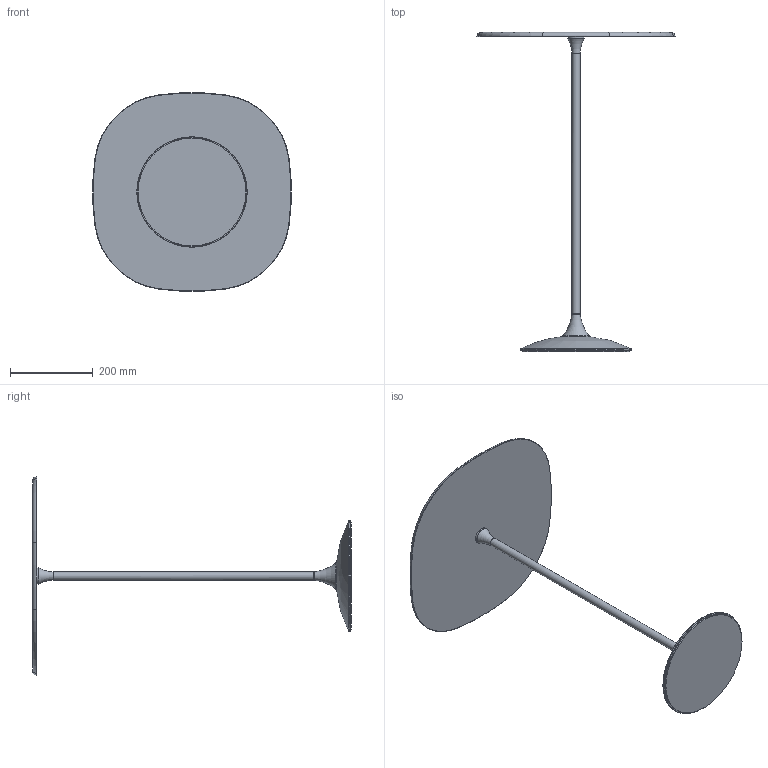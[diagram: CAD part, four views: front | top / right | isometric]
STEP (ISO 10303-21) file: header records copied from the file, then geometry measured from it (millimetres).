
FILE_DESCRIPTION((''),'2;1');
FILE_NAME('C:\AutodeskVault\AreaLavoro\Progetti\SoVeT Italia\2. Tavolini_Coffee tables\Tulip\Web file\Tulip Web\P4625.stp','2012-06-14T17:29:37',('Gianluca'),('So.Ve.T. s.r.l.'),'Autodesk Inventor 2013','Autodesk Inventor 2013','IL PROGETTO E'' DI ESCLUSIVA PROPRIETA'' DELLA SO.VE.T. srl. E'' VIETATA OGNI RIPRODUZIONE TOTALE O PARZIALE E QUALSIASI UTILIZZO NON AUTORIZZATO. ');
FILE_SCHEMA(('AUTOMOTIVE_DESIGN { 1 0 10303 214 1 1 1 1 }'));
Length unit declared in the file: millimetre
Products named in the file (1): P4625 LCTR Contorno semplificato
Bounding box: 478.8 x 770.45 x 478.8 mm (x, y, z)
Volume: 3489278.7 mm3; surface area: 568648.4 mm2
Topology: 1 solids, 1 shells, 40 faces, 85 edges, 50 vertices
Faces by surface type: torus 14, cone 14, plane 6, cylinder 5, bspline 1
Full cylindrical faces by diameter (mm): 20 x1, 40 x1, 60 x1, 260 x1, 267 x1
Entity records: 1066 total; most frequent: DIRECTION 196, CARTESIAN_POINT 174, ORIENTED_EDGE 124, AXIS2_PLACEMENT_3D 94, EDGE_CURVE 62, EDGE_LOOP 62, CIRCLE 54, VERTEX_POINT 45
